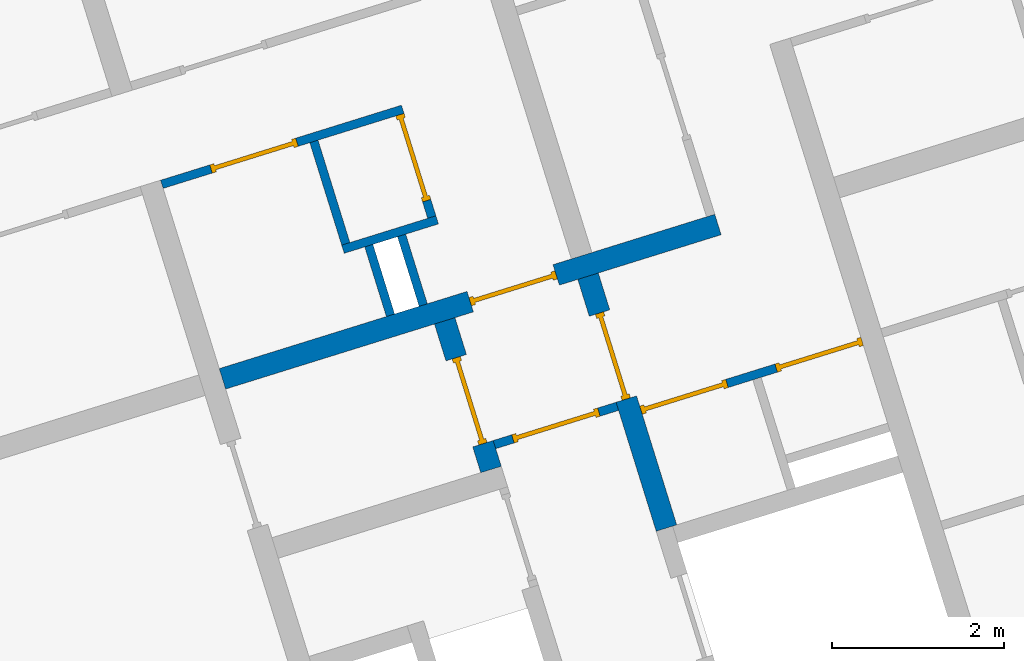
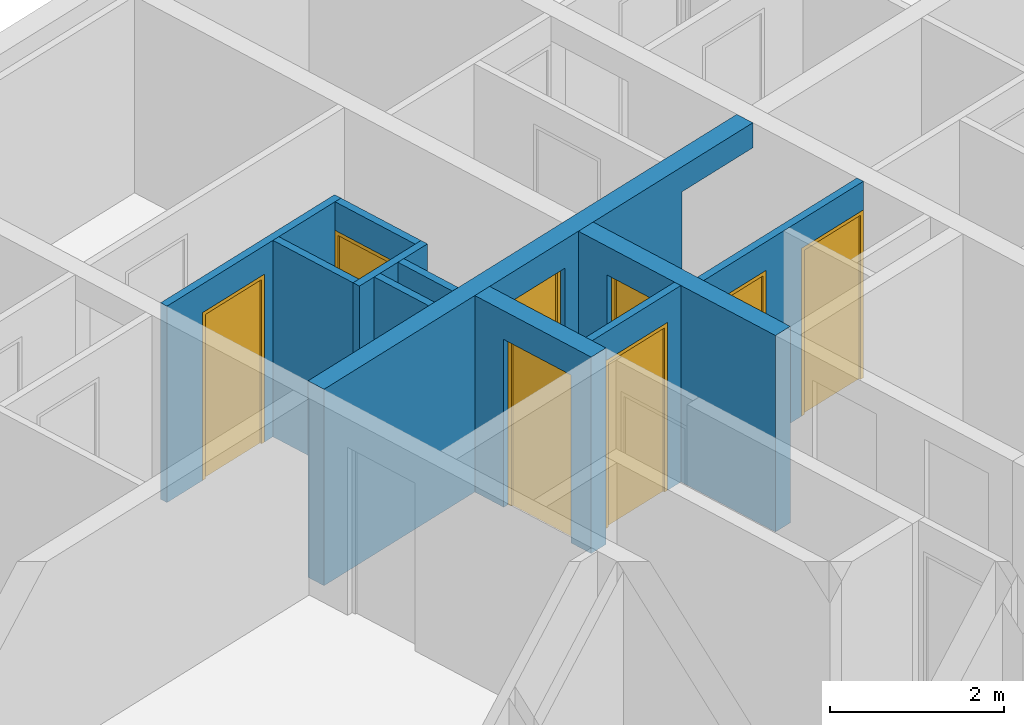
# One storey, part 5 of 9: 11 walls, 8 doors, 11 openings.
"""IFC4 building model written with IfcOpenShell, lengths in metres."""

from ifc_helpers import new_model, entity, si_unit, converted_unit, direction, frame, origin, place, context, subcontext, project, spatial, indexed_curve, outline, extrude, polygons, source, transform, mapped, material, constituent, constituent_set, type_object, type_shapes, element, fill, save


model = new_model("IFC4")

# Units and contexts
model_context = context("Model", 3, precision=1e-05, world=origin(), true_north=direction((6.12323399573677e-17, 1.0)))
body_context = subcontext(model_context, "Body", "Model", "MODEL_VIEW")
ifc_project = project(units=[si_unit("LENGTHUNIT", "METRE"), si_unit("AREAUNIT", "SQUARE_METRE"), converted_unit("PLANEANGLEUNIT", "DEGREE", entity("IfcPlaneAngleMeasure", 0.0174532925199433), si_unit("PLANEANGLEUNIT", "RADIAN"), dimensions=[0, 0, 0, 0, 0, 0, 0]), si_unit("VOLUMEUNIT", "CUBIC_METRE")], contexts=[model_context])

# Site, building, storey
site_placement = place(None, frame((13.1347999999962, 11.9886000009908, 0.0), z_axis=(0.0, 0.0, 1.0), x_axis=(0.954770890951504, 0.297342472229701, 0.0)))
site = spatial("IfcSite", under=ifc_project, at=site_placement, Name="Schiehaven", CompositionType="ELEMENT")
building_placement = place(site_placement, origin())
building = spatial("IfcBuilding", under=site, at=building_placement, Name="VORM huis", CompositionType="ELEMENT")
storey_placement = place(building_placement, frame((0.0, 0.0, 24.9)))
storey = spatial("IfcBuildingStorey", under=building, at=storey_placement, Name="08 achtste verdieping", CompositionType="ELEMENT", Elevation=24.9)

# Wall, openings, door
ifc_material_1 = material(Name="beton_gewapend_ihw", Category="Miscellaneous")
wall_type_1 = type_object("IfcWallType", Name="Basic Wall:28_WA_skelet_wand 250mm_gen", PredefinedType="STANDARD")
wall_1_placement = place(storey_placement, frame((72.3749999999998, 22.1999999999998, 0.0), z_axis=(0.0, 0.0, 1.0), x_axis=(-1.0, 0.0, 0.0)))
wall_1 = element("IfcWall", 1, at=wall_1_placement, inside=storey, type_object=wall_type_1, material=ifc_material_1, Name="Constructieve wand", ObjectType="Wand", PredefinedType="NOTDEFINED", context=body_context, shape_type="Tessellation", body=[
    polygons([(4.225, -0.124999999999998, 2.34999999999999), (4.225, -0.124999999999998, 0.0), (7.25000000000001, -0.124999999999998, 0.0), (7.25000000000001, -0.124999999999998, 2.75), (9.99819487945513e-15, -0.124999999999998, 2.75), (9.99819487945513e-15, -0.124999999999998, 2.4), (1.2, -0.124999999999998, 2.4), (1.2, -0.124999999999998, 0.0), (3.175, -0.124999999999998, 0.0), (3.175, -0.124999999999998, 2.34999999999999), (7.25000000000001, 0.125000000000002, 0.0), (4.22500000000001, 0.125000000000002, 0.0), (4.22500000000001, 0.125000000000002, 2.34999999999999), (3.175, 0.125000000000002, 2.34999999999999), (3.175, 0.125000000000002, 0.0), (1.2, 0.125000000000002, 0.0), (1.2, 0.125000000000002, 2.4), (1.32815610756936e-14, 0.125000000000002, 2.4), (1.32815610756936e-14, 0.125000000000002, 2.75), (7.25, 0.125000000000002, 2.75)], [[[1, 2, 3, 4, 5, 6, 7, 8, 9, 10]], [[11, 12, 13, 14, 15, 16, 17, 18, 19, 20]], [[9, 8, 16, 15]], [[5, 4, 20, 19]], [[5, 19, 18, 6]], [[15, 14, 10, 9]], [[13, 12, 2, 1]], [[14, 13, 1, 10]], [[7, 17, 16, 8]], [[17, 7, 6, 18]], [[4, 3, 11, 20]], [[3, 2, 12, 11]]], closed=True),
])
opening_1_placement = place(wall_1_placement, origin())
element("IfcOpeningElement", 2, at=opening_1_placement, cuts=wall_1, Name="Constructieve wand", PredefinedType="OPENING", context=body_context, shape_type="SweptSolid", body=[
    extrude(outline(indexed_curve([(-1.2, -0.600000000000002), (1.2, -0.600000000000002), (1.2, 0.600000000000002), (-1.2, 0.600000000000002), (-1.2, -0.600000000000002)], self_intersect=False)), frame((0.599999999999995, -0.124999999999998, 1.2), z_axis=(0.0, 1.0, 0.0), x_axis=(0.0, 0.0, -1.0)), (0.0, 0.0, 1.0), 0.250000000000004),
])
opening_2_placement = place(wall_1_placement, frame((3.175, -0.124999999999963, 0.0)))
opening_2 = element("IfcOpeningElement", 3, at=opening_2_placement, cuts=wall_1, Name="Woningtoegangsdeur", PredefinedType="OPENING", context=body_context, shape_type="SweptSolid", body=[
    extrude(outline(indexed_curve([(2.34999999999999, 2.2221558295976e-31), (2.34999999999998, 1.05), (0.0, 1.05), (2.16573425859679e-15, 2.2221558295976e-31), (2.34999999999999, 2.2221558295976e-31)], self_intersect=False)), frame((0.0, 0.0, 0.0), z_axis=(0.0, 1.0, 0.0), x_axis=(0.0, 0.0, 1.0)), (0.0, 0.0, 1.0), 0.25),
])
ifc_material_2 = material(Name="PD_a_binnenwandopeningen", Category="Miscellaneous")
ifc_constituent_1 = constituent(ifc_material_2, Name="PD_a_binnenwandopeningen", Category="Miscellaneous")
ifc_material_3 = material(Name="metaal_aluminium_ntb", Category="Miscellaneous")
ifc_constituent_2 = constituent(ifc_material_3, Name="metaal_aluminium_ntb", Category="Miscellaneous")
ifc_constituent_set_1 = constituent_set(constituents=[ifc_constituent_1, ifc_constituent_2])
ifc_constituent_3 = constituent(ifc_material_2, Name="PD_a_binnenwandopeningen", Category="Miscellaneous")
ifc_constituent_4 = constituent(ifc_material_3, Name="Panel", Category="Miscellaneous")
ifc_constituent_set_2 = constituent_set(constituents=[ifc_constituent_3, ifc_constituent_4])
door_type_1 = type_object("IfcDoorType", Name="32_DO_binnendeur enkel:woningtoegangsdeur", OperationType="REVOLVING", PredefinedType="DOOR", material=ifc_constituent_set_2)
shared_shape_1 = source(origin(), body_context, "Body", "SweptSolid", [
    extrude(outline(indexed_curve([(0.475, -1.16249999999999), (0.525000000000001, -1.16249999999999), (0.525000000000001, 1.18749999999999), (-0.525000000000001, 1.18749999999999), (-0.525000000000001, -1.16249999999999), (-0.475, -1.16249999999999), (-0.475, 1.13749999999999), (0.475, 1.13749999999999), (0.475, -1.16249999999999)], self_intersect=False)), frame((0.525000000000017, 0.174999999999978, 1.16249999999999), z_axis=(0.0, -1.0, 0.0), x_axis=(1.0, 0.0, 0.0)), (0.0, 0.0, 1.0), 0.1),
    extrude(outline(indexed_curve([(-0.475, -0.025), (0.475, -0.025), (0.475, 0.025), (-0.475, 0.025), (-0.475, -0.025)], self_intersect=False)), frame((0.525000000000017, 0.12499999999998, 0.0)), (0.0, 0.0, 1.0), 2.29999999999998),
])
type_shapes(door_type_1, [shared_shape_1])
door_1_placement = place(opening_2_placement, origin())
door_1 = element("IfcDoor", 4, at=door_1_placement, inside=storey, type_object=door_type_1, material=ifc_constituent_set_1, Name="Woningtoegangsdeur", ObjectType="Deur", OperationType="REVOLVING", OverallHeight=2.34999999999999, OverallWidth=1.05, PredefinedType="DOOR", context=body_context, shape_type="MappedRepresentation", body=[
    mapped(shared_shape_1, transform((0.0, 0.0, 0.0), scale=1.0)),
])
fill(opening_2, door_1)

# Wall, opening, door
ifc_material_4 = material(Name="ntb_ntb_ntb", Category="Miscellaneous")
wall_type_2 = type_object("IfcWallType", Name="Basic Wall:22_WA_afbouw_binnenwand 250mm_gen", PredefinedType="STANDARD")
wall_2_placement = place(storey_placement, frame((67.7999999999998, 20.2599999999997, 0.0), z_axis=(0.0, 0.0, 1.0), x_axis=(0.0, 1.0, 0.0)))
wall_2 = element("IfcWall", 5, at=wall_2_placement, inside=storey, type_object=wall_type_2, material=ifc_material_4, Name="Binnenwand", ObjectType="Wand", PredefinedType="NOTDEFINED", context=body_context, shape_type="Tessellation", body=[
    polygons([(4.33146851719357e-15, -0.125000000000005, 0.0), (0.215000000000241, -0.125, 0.0), (0.31500000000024, -0.125000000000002, 0.0), (0.31500000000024, -0.125000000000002, 2.34999999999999), (1.36500000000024, -0.124999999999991, 2.34999999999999), (1.36500000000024, -0.124999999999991, 0.0), (1.81500000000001, -0.124999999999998, 0.0), (1.81500000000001, -0.124999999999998, 2.75), (0.31500000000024, -0.125000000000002, 2.75), (0.215000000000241, -0.125, 2.75), (4.33146851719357e-15, -0.125000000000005, 2.75), (0.31500000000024, 0.125000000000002, 2.34999999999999), (0.31500000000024, 0.125000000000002, 0.0), (8.66293703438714e-15, 0.125000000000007, 0.0), (4.33146851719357e-15, 0.125000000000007, 2.75), (1.81500000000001, 0.124999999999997, 2.75), (1.81500000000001, 0.124999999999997, 0.0), (1.36500000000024, 0.125000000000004, 0.0), (1.36500000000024, 0.125000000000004, 2.34999999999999)], [[[1, 2, 3, 4, 5, 6, 7, 8, 9, 10, 11]], [[12, 13, 14, 15, 16, 17, 18, 19]], [[14, 13, 3, 2, 1]], [[8, 7, 17, 16]], [[11, 10, 9, 8, 16, 15]], [[6, 5, 19, 18]], [[4, 3, 13, 12]], [[5, 4, 12, 19]], [[1, 11, 15, 14]], [[18, 17, 7, 6]]], closed=True),
])
opening_3_placement = place(wall_2_placement, frame((1.36500000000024, 0.125000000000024, 0.0)))
opening_3 = element("IfcOpeningElement", 6, at=opening_3_placement, cuts=wall_2, Name="Woningtoegangsdeur", PredefinedType="OPENING", context=body_context, shape_type="SweptSolid", body=[
    extrude(outline(indexed_curve([(2.34999999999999, 0.0), (2.34999999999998, 1.05), (0.0, 1.05), (2.16573425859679e-15, 0.0), (2.34999999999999, 0.0)], self_intersect=False)), frame((0.0, 0.0, 0.0), z_axis=(0.0, -1.0, 0.0), x_axis=(0.0, 0.0, 1.0)), (0.0, 0.0, 1.0), 0.25),
])
ifc_constituent_5 = constituent(ifc_material_2, Name="PD_a_binnenwandopeningen", Category="Miscellaneous")
ifc_constituent_6 = constituent(ifc_material_3, Name="metaal_aluminium_ntb", Category="Miscellaneous")
ifc_constituent_set_3 = constituent_set(constituents=[ifc_constituent_5, ifc_constituent_6])
ifc_constituent_7 = constituent(ifc_material_2, Name="PD_a_binnenwandopeningen", Category="Miscellaneous")
ifc_constituent_8 = constituent(ifc_material_3, Name="Panel", Category="Miscellaneous")
ifc_constituent_set_4 = constituent_set(constituents=[ifc_constituent_7, ifc_constituent_8])
door_type_2 = type_object("IfcDoorType", Name="32_DO_binnendeur enkel:woningtoegangsdeur", OperationType="REVOLVING", PredefinedType="DOOR", material=ifc_constituent_set_4)
shared_shape_2 = source(origin(), body_context, "Body", "SweptSolid", [
    extrude(outline(indexed_curve([(0.475, -1.16249999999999), (0.525000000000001, -1.16249999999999), (0.525000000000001, 1.18749999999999), (-0.525000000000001, 1.18749999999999), (-0.525000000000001, -1.16249999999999), (-0.475, -1.16249999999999), (-0.475, 1.13749999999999), (0.475, 1.13749999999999), (0.475, -1.16249999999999)], self_intersect=False)), frame((0.525000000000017, 0.174999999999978, 1.16249999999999), z_axis=(0.0, -1.0, 0.0), x_axis=(1.0, 0.0, 0.0)), (0.0, 0.0, 1.0), 0.1),
    extrude(outline(indexed_curve([(-0.475, -0.025), (0.475, -0.025), (0.475, 0.025), (-0.475, 0.025), (-0.475, -0.025)], self_intersect=False)), frame((0.525000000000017, 0.12499999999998, 0.0)), (0.0, 0.0, 1.0), 2.29999999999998),
])
type_shapes(door_type_2, [shared_shape_2])
door_2_placement = place(opening_3_placement, frame((0.0, 0.0, 0.0), z_axis=(0.0, 0.0, 1.0), x_axis=(-1.0, 0.0, 0.0)))
door_2 = element("IfcDoor", 7, at=door_2_placement, inside=storey, type_object=door_type_2, material=ifc_constituent_set_3, Name="Woningtoegangsdeur", ObjectType="Deur", OperationType="REVOLVING", OverallHeight=2.34999999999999, OverallWidth=1.05, PredefinedType="DOOR", context=body_context, shape_type="MappedRepresentation", body=[
    mapped(shared_shape_2, transform((0.0, 0.0, 0.0), scale=1.0)),
])
fill(opening_3, door_2)

wall_3_placement = place(storey_placement, frame((69.5499999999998, 19.0, 0.0), z_axis=(0.0, 0.0, 1.0), x_axis=(0.0, 1.0, 0.0)))
wall_3 = element("IfcWall", 8, at=wall_3_placement, inside=storey, type_object=wall_type_2, material=ifc_material_4, Name="Binnenwand", ObjectType="Wand", PredefinedType="NOTDEFINED", context=body_context, shape_type="Tessellation", body=[
    polygons([(2.62500000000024, -0.12500000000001, 2.34999999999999), (2.62500000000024, -0.12500000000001, 0.0), (3.075, -0.125000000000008, 0.0), (3.075, -0.125000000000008, 2.75), (0.0, -0.125000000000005, 2.75), (0.0, -0.125000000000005, 0.0), (1.57500000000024, -0.125000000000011, 0.0), (1.57500000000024, -0.125000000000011, 2.34999999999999), (3.075, 0.124999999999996, 0.0), (2.62500000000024, 0.125000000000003, 0.0), (2.62500000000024, 0.125000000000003, 2.34999999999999), (1.57500000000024, 0.124999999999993, 2.34999999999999), (1.57500000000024, 0.124999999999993, 0.0), (1.4750000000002, 0.124999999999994, 0.0), (2.16573425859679e-15, 0.12499999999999, 0.0), (2.16573425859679e-15, 0.12499999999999, 2.75), (1.4750000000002, 0.124999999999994, 2.75), (1.5750000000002, 0.124999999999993, 2.75), (3.075, 0.124999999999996, 2.75)], [[[1, 2, 3, 4, 5, 6, 7, 8]], [[9, 10, 11, 12, 13, 14, 15, 16, 17, 18, 19]], [[7, 6, 15, 14, 13]], [[4, 3, 9, 19]], [[5, 4, 19, 18, 17, 16]], [[6, 5, 16, 15]], [[13, 12, 8, 7]], [[11, 10, 2, 1]], [[12, 11, 1, 8]], [[3, 2, 10, 9]]], closed=True),
])
opening_4_placement = place(wall_3_placement, frame((1.57499999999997, -0.124999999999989, 0.0)))
opening_4 = element("IfcOpeningElement", 9, at=opening_4_placement, cuts=wall_3, Name="Woningtoegangsdeur", PredefinedType="OPENING", context=body_context, shape_type="SweptSolid", body=[
    extrude(outline(indexed_curve([(2.34999999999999, 0.0), (2.34999999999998, 1.05), (0.0, 1.05), (2.16573425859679e-15, 0.0), (2.34999999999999, 0.0)], self_intersect=False)), frame((0.0, 0.0, 0.0), z_axis=(0.0, 1.0, 0.0), x_axis=(0.0, 0.0, 1.0)), (0.0, 0.0, 1.0), 0.25),
])
ifc_constituent_9 = constituent(ifc_material_2, Name="PD_a_binnenwandopeningen", Category="Miscellaneous")
ifc_constituent_10 = constituent(ifc_material_3, Name="metaal_aluminium_ntb", Category="Miscellaneous")
ifc_constituent_set_5 = constituent_set(constituents=[ifc_constituent_9, ifc_constituent_10])
door_3_placement = place(opening_4_placement, origin())
door_3 = element("IfcDoor", 10, at=door_3_placement, inside=storey, type_object=door_type_2, material=ifc_constituent_set_5, Name="Woningtoegangsdeur", ObjectType="Deur", OperationType="REVOLVING", OverallHeight=2.34999999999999, OverallWidth=1.05, PredefinedType="DOOR", context=body_context, shape_type="MappedRepresentation", body=[
    mapped(shared_shape_2, transform((0.0, 0.0, 0.0), scale=1.0)),
])
fill(opening_4, door_3)

wall_type_3 = type_object("IfcWallType", Name="Basic Wall:22_WA_afbouw_binnenwand 100mm_gen", PredefinedType="STANDARD")
wall_4_placement = place(storey_placement, frame((67.9249999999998, 20.5249999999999, 0.0)))
wall_4 = element("IfcWall", 11, at=wall_4_placement, inside=storey, type_object=wall_type_3, material=ifc_material_4, Name="Binnenwand", ObjectType="Wand", PredefinedType="NOTDEFINED", context=body_context, shape_type="Tessellation", body=[
    polygons([(1.50000000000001, -0.0500000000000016, 2.75), (1.03359612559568e-15, -0.0499999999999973, 2.75), (1.03359612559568e-15, -0.0499999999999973, 0.0), (0.225000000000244, -0.0500000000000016, 0.0), (0.225000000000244, -0.0500000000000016, 2.34999999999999), (1.27500000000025, -0.0500000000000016, 2.34999999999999), (1.27500000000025, -0.0500000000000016, 0.0), (1.50000000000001, -0.0500000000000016, 0.0), (6.15545946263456e-16, 0.0500000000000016, 2.75), (1.50000000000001, 0.0499999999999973, 2.75), (1.50000000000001, 0.0499999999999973, 2.34999999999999), (1.50000000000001, 0.0499999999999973, 0.0), (1.27500000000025, 0.0499999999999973, 0.0), (1.27500000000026, 0.0499999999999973, 2.34999999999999), (0.225000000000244, 0.0499999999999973, 2.34999999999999), (0.225000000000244, 0.0499999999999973, 0.0), (6.15545946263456e-16, 0.0500000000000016, 0.0), (6.15545946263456e-16, 0.0500000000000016, 2.34999999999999)], [[[1, 2, 3, 4, 5, 6, 7, 8]], [[9, 10, 11, 12, 13, 14, 15, 16, 17, 18]], [[3, 17, 16, 4]], [[2, 1, 10, 9]], [[15, 5, 4, 16]], [[5, 15, 14, 6]], [[6, 14, 13, 7]], [[1, 8, 12, 11, 10]], [[3, 2, 9, 18, 17]], [[12, 8, 7, 13]]], closed=True),
])
opening_5_placement = place(wall_4_placement, frame((1.27500000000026, 0.0499999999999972, 0.0)))
opening_5 = element("IfcOpeningElement", 12, at=opening_5_placement, cuts=wall_4, Name="Vluchtdeur", PredefinedType="OPENING", context=body_context, shape_type="SweptSolid", body=[
    extrude(outline(indexed_curve([(2.34999999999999, -1.78601455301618e-29), (2.34999999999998, 1.05), (0.0, 1.05), (2.16573425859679e-15, -1.78601455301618e-29), (2.34999999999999, -1.78601455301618e-29)], self_intersect=False)), frame((0.0, 0.0, 0.0), z_axis=(0.0, -1.0, 0.0), x_axis=(0.0, 0.0, 1.0)), (0.0, 0.0, 1.0), 0.1),
])
ifc_constituent_11 = constituent(ifc_material_2, Name="PD_a_binnenwandopeningen", Category="Miscellaneous")
ifc_constituent_12 = constituent(ifc_material_3, Name="metaal_aluminium_ntb", Category="Miscellaneous")
ifc_constituent_set_6 = constituent_set(constituents=[ifc_constituent_11, ifc_constituent_12])
ifc_constituent_13 = constituent(ifc_material_2, Name="PD_a_binnenwandopeningen", Category="Miscellaneous")
ifc_constituent_14 = constituent(ifc_material_3, Name="Panel", Category="Miscellaneous")
ifc_constituent_set_7 = constituent_set(constituents=[ifc_constituent_13, ifc_constituent_14])
door_type_3 = type_object("IfcDoorType", Name="32_DO_binnendeur enkel:binnendeur zelfsluitend 30min", OperationType="NOTDEFINED", PredefinedType="DOOR", material=ifc_constituent_set_7)
shared_shape_3 = source(origin(), body_context, "Body", "SweptSolid", [
    extrude(outline(indexed_curve([(0.475, -1.16249999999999), (0.525, -1.16249999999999), (0.525, 1.18749999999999), (-0.525, 1.18749999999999), (-0.525, -1.16249999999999), (-0.475, -1.16249999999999), (-0.475, 1.13749999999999), (0.475, 1.13749999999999), (0.475, -1.16249999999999)], self_intersect=False)), frame((0.525000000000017, 0.100000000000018, 1.16249999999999), z_axis=(0.0, -1.0, 0.0), x_axis=(1.0, 0.0, 0.0)), (0.0, 0.0, 1.0), 0.1),
    extrude(outline(indexed_curve([(-0.475, -0.025), (0.475, -0.025), (0.475, 0.025), (-0.475, 0.025), (-0.475, -0.025)], self_intersect=False)), frame((0.525000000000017, 0.0499999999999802, 0.0)), (0.0, 0.0, 1.0), 2.29999999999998),
])
type_shapes(door_type_3, [shared_shape_3])
door_4_placement = place(opening_5_placement, frame((0.0, 0.0, 0.0), z_axis=(0.0, 0.0, 1.0), x_axis=(-1.0, 0.0, 0.0)))
door_4 = element("IfcDoor", 13, at=door_4_placement, inside=storey, type_object=door_type_3, material=ifc_constituent_set_6, Name="Vluchtdeur", ObjectType="Deur", OperationType="NOTDEFINED", OverallHeight=2.34999999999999, OverallWidth=1.05, PredefinedType="DOOR", context=body_context, shape_type="MappedRepresentation", body=[
    mapped(shared_shape_3, transform((0.0, 0.0, 0.0), scale=1.0)),
])
fill(opening_5, door_4)

# Wall, openings, door
wall_5_placement = place(storey_placement, frame((65.1249999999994, 24.5750000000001, 0.0)))
wall_5 = element("IfcWall", 14, at=wall_5_placement, inside=storey, type_object=wall_type_3, material=ifc_material_4, Name="Binnenwand", ObjectType="Wand", PredefinedType="NOTDEFINED", context=body_context, shape_type="Tessellation", body=[
    polygons([(1.65, -0.0499999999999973, 2.34999999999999), (1.65, -0.0499999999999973, 0.0), (1.79100000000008, -0.049999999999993, 0.0), (1.89100000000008, -0.0499999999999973, 0.0), (2.94100000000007, -0.0499999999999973, 0.0), (2.94100000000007, -0.0499999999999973, 2.34999999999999), (2.94100000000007, -0.0499999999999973, 2.75), (2.84100000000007, -0.0499999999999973, 2.75), (1.89100000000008, -0.0499999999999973, 2.75), (1.79100000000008, -0.049999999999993, 2.75), (-1.42600901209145e-15, -0.0499999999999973, 2.75), (-1.42600901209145e-15, -0.0499999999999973, 0.0), (0.600000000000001, -0.049999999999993, 0.0), (0.600000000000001, -0.049999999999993, 2.34999999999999), (2.94100000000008, 0.0500000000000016, 0.0), (1.65000000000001, 0.0500000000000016, 0.0), (1.65000000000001, 0.0500000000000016, 2.34999999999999), (0.600000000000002, 0.050000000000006, 2.34999999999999), (0.600000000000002, 0.050000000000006, 0.0), (-3.36814153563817e-16, 0.0500000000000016, 0.0), (-3.36814153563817e-16, 0.0500000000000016, 2.75), (2.94100000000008, 0.0500000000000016, 2.75)], [[[1, 2, 3, 4, 5, 6, 7, 8, 9, 10, 11, 12, 13, 14]], [[15, 16, 17, 18, 19, 20, 21, 22]], [[13, 12, 20, 19]], [[11, 10, 9, 8, 7, 22, 21]], [[12, 11, 21, 20]], [[19, 18, 14, 13]], [[17, 16, 2, 1]], [[18, 17, 1, 14]], [[7, 6, 5, 15, 22]], [[5, 4, 3, 2, 16, 15]]], closed=True),
])
opening_6_placement = place(wall_5_placement, origin())
element("IfcOpeningElement", 15, at=opening_6_placement, cuts=wall_5, Name="Binnendeur", PredefinedType="OPENING", context=body_context, shape_type="SweptSolid", body=[
    extrude(outline(indexed_curve([(-0.0499999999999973, -1.17499999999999), (0.050000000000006, -1.17499999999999), (0.050000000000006, 1.17499999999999), (-0.0499999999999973, 1.17499999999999), (-0.0499999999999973, -1.17499999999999)], self_intersect=False)), frame((2.89100000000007, -1.1, 1.17499999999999), z_axis=(0.0, 1.0, 0.0), x_axis=(1.0, 0.0, 0.0)), (0.0, 0.0, 1.0), 1.05),
])
opening_7_placement = place(wall_5_placement, frame((0.600000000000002, -0.0499999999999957, 0.0)))
opening_7 = element("IfcOpeningElement", 16, at=opening_7_placement, cuts=wall_5, Name="Binnendeur", PredefinedType="OPENING", context=body_context, shape_type="SweptSolid", body=[
    extrude(outline(indexed_curve([(2.34999999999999, 3.02234910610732e-29), (2.34999999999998, 1.05), (0.0, 1.05), (2.16573425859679e-15, 3.02234910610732e-29), (2.34999999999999, 3.02234910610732e-29)], self_intersect=False)), frame((0.0, 0.0, 0.0), z_axis=(0.0, 1.0, 0.0), x_axis=(0.0, 0.0, 1.0)), (0.0, 0.0, 1.0), 0.1),
])
ifc_constituent_15 = constituent(ifc_material_2, Name="PD_a_binnenwandopeningen", Category="Miscellaneous")
ifc_constituent_16 = constituent(ifc_material_3, Name="metaal_aluminium_ntb", Category="Miscellaneous")
ifc_constituent_set_8 = constituent_set(constituents=[ifc_constituent_15, ifc_constituent_16])
ifc_constituent_17 = constituent(ifc_material_2, Name="PD_a_binnenwandopeningen", Category="Miscellaneous")
ifc_constituent_18 = constituent(ifc_material_3, Name="Panel", Category="Miscellaneous")
ifc_constituent_set_9 = constituent_set(constituents=[ifc_constituent_17, ifc_constituent_18])
door_type_4 = type_object("IfcDoorType", Name="32_DO_binnendeur enkel:binnendeur", OperationType="REVOLVING", PredefinedType="DOOR", material=ifc_constituent_set_9)
shared_shape_4 = source(origin(), body_context, "Body", "SweptSolid", [
    extrude(outline(indexed_curve([(0.475, -1.16249999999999), (0.525, -1.16249999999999), (0.525, 1.18749999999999), (-0.525, 1.18749999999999), (-0.525, -1.16249999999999), (-0.475, -1.16249999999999), (-0.475, 1.13749999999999), (0.475, 1.13749999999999), (0.475, -1.16249999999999)], self_intersect=False)), frame((0.525000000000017, 0.100000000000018, 1.16249999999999), z_axis=(0.0, -1.0, 0.0), x_axis=(1.0, 0.0, 0.0)), (0.0, 0.0, 1.0), 0.1),
    extrude(outline(indexed_curve([(-0.475, -0.025), (0.475, -0.025), (0.475, 0.025), (-0.475, 0.025), (-0.475, -0.025)], self_intersect=False)), frame((0.525000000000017, 0.0499999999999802, 0.0)), (0.0, 0.0, 1.0), 2.29999999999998),
])
type_shapes(door_type_4, [shared_shape_4])
door_5_placement = place(opening_7_placement, origin())
door_5 = element("IfcDoor", 17, at=door_5_placement, inside=storey, type_object=door_type_4, material=ifc_constituent_set_8, Name="Binnendeur", ObjectType="Deur", OperationType="REVOLVING", OverallHeight=2.34999999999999, OverallWidth=1.05, PredefinedType="DOOR", context=body_context, shape_type="MappedRepresentation", body=[
    mapped(shared_shape_4, transform((0.0, 0.0, 0.0), scale=1.0)),
])
fill(opening_7, door_5)

# Wall, opening, door
wall_6_placement = place(storey_placement, frame((68.0159999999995, 24.5250000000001, 0.0), z_axis=(0.0, 0.0, 1.0), x_axis=(0.0, -1.0, 0.0)))
wall_6 = element("IfcWall", 18, at=wall_6_placement, inside=storey, type_object=wall_type_3, material=ifc_material_4, Name="Binnenwand", ObjectType="Wand", PredefinedType="NOTDEFINED", context=body_context, shape_type="Tessellation", body=[
    polygons([(1.24999999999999, -0.0500000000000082, 2.75), (-4.33146851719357e-15, -0.0500000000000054, 2.75), (-4.33146851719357e-15, -0.0500000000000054, 2.34999999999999), (1.05, -0.0500000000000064, 2.34999999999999), (1.05, -0.0500000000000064, 0.0), (1.24999999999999, -0.0500000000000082, 0.0), (0.0, 0.0499999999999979, 2.75), (1.24999999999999, 0.049999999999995, 2.75), (1.24999999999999, 0.049999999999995, 0.0), (1.05, 0.0499999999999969, 0.0), (1.05, 0.0499999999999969, 2.34999999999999), (0.0, 0.0499999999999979, 2.34999999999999)], [[[1, 2, 3, 4, 5, 6]], [[7, 8, 9, 10, 11, 12]], [[9, 6, 5, 10]], [[2, 1, 8, 7]], [[4, 11, 10, 5]], [[11, 4, 3, 12]], [[1, 6, 9, 8]], [[2, 7, 12, 3]]], closed=True),
])
opening_8_placement = place(wall_6_placement, frame((0.0, -0.050000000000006, 0.0)))
opening_8 = element("IfcOpeningElement", 19, at=opening_8_placement, cuts=wall_6, Name="Binnendeur", PredefinedType="OPENING", context=body_context, shape_type="SweptSolid", body=[
    extrude(outline(indexed_curve([(2.34999999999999, -9.61779215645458e-31), (2.34999999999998, 1.05), (0.0, 1.05), (2.16573425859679e-15, -9.61779215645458e-31), (2.34999999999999, -9.61779215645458e-31)], self_intersect=False)), frame((0.0, 0.0, 0.0), z_axis=(0.0, 1.0, 0.0), x_axis=(0.0, 0.0, 1.0)), (0.0, 0.0, 1.0), 0.1),
])
ifc_constituent_19 = constituent(ifc_material_2, Name="PD_a_binnenwandopeningen", Category="Miscellaneous")
ifc_constituent_20 = constituent(ifc_material_3, Name="metaal_aluminium_ntb", Category="Miscellaneous")
ifc_constituent_set_10 = constituent_set(constituents=[ifc_constituent_19, ifc_constituent_20])
door_6_placement = place(opening_8_placement, origin())
door_6 = element("IfcDoor", 20, at=door_6_placement, inside=storey, type_object=door_type_4, material=ifc_constituent_set_10, Name="Binnendeur", ObjectType="Deur", OperationType="REVOLVING", OverallHeight=2.34999999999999, OverallWidth=1.05, PredefinedType="DOOR", context=body_context, shape_type="MappedRepresentation", body=[
    mapped(shared_shape_4, transform((0.0, 0.0, 0.0), scale=1.0)),
])
fill(opening_8, door_6)

# Walls
wall_7_placement = place(storey_placement, frame((66.9159999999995, 23.2250000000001, 0.0)))
element("IfcWall", 21, at=wall_7_placement, inside=storey, type_object=wall_type_3, material=ifc_material_4, Name="Binnenwand", ObjectType="Wand", PredefinedType="NOTDEFINED", context=body_context, shape_type="SweptSolid", body=[
    extrude(outline(indexed_curve([(1.15, 0.0500000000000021), (5.44597429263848e-16, 0.0500000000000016), (-5.44597429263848e-16, -0.0500000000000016), (1.15, -0.0500000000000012), (1.15, 0.0500000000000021)], self_intersect=False)), origin(), (0.0, 0.0, 1.0), 2.75),
])
wall_8_placement = place(storey_placement, frame((66.9659999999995, 23.2750000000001, 0.0), z_axis=(0.0, 0.0, 1.0), x_axis=(0.0, 1.0, 0.0)))
element("IfcWall", 22, at=wall_8_placement, inside=storey, type_object=wall_type_3, material=ifc_material_4, Name="Binnenwand", ObjectType="Wand", PredefinedType="NOTDEFINED", context=body_context, shape_type="SweptSolid", body=[
    extrude(outline(indexed_curve([(1.25, 0.0499999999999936), (4.9348290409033e-16, 0.0499999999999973), (-4.9348290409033e-16, -0.0499999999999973), (1.25, -0.050000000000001), (1.25, 0.0499999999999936)], self_intersect=False)), origin(), (0.0, 0.0, 1.0), 2.75),
])
wall_9_placement = place(storey_placement, frame((67.6159999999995, 22.3250000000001, 0.0), z_axis=(0.0, 0.0, 1.0), x_axis=(0.0, 1.0, 0.0)))
element("IfcWall", 23, at=wall_9_placement, inside=storey, type_object=wall_type_3, material=ifc_material_4, Name="Binnenwand", ObjectType="Wand", PredefinedType="NOTDEFINED", context=body_context, shape_type="SweptSolid", body=[
    extrude(outline(indexed_curve([(0.85000000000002, 0.0499999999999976), (4.9348290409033e-16, 0.0499999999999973), (-4.9348290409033e-16, -0.0499999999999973), (0.850000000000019, -0.049999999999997), (0.85000000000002, 0.0499999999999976)], self_intersect=False)), origin(), (0.0, 0.0, 1.0), 2.75),
])
wall_10_placement = place(storey_placement, frame((67.2159999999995, 22.3250000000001, 0.0), z_axis=(0.0, 0.0, 1.0), x_axis=(0.0, 1.0, 0.0)))
element("IfcWall", 24, at=wall_10_placement, inside=storey, type_object=wall_type_3, material=ifc_material_4, Name="Binnenwand", ObjectType="Wand", PredefinedType="NOTDEFINED", context=body_context, shape_type="SweptSolid", body=[
    extrude(outline(indexed_curve([(0.850000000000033, 0.0499999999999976), (4.9348290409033e-16, 0.0499999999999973), (-4.9348290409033e-16, -0.0499999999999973), (0.850000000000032, -0.049999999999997), (0.850000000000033, 0.0499999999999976)], self_intersect=False)), origin(), (0.0, 0.0, 1.0), 2.75),
])

# Wall, openings, doors
wall_11_placement = place(storey_placement, frame((72.3749999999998, 20.3999999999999, 0.0), z_axis=(0.0, 0.0, 1.0), x_axis=(-1.0, 0.0, 0.0)))
wall_11 = element("IfcWall", 25, at=wall_11_placement, inside=storey, type_object=wall_type_3, material=ifc_material_4, Name="Binnenwand", ObjectType="Wand", PredefinedType="NOTDEFINED", context=body_context, shape_type="Tessellation", body=[
    polygons([(2.70000000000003, -0.0499999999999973, 2.75), (3.45762825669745e-15, -0.0499999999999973, 2.75), (3.45762825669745e-15, -0.0499999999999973, 2.34999999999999), (1.05, -0.0499999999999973, 2.34999999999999), (1.05, -0.0499999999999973, 0.0), (1.65000000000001, -0.0499999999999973, 0.0), (1.65000000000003, -0.0499999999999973, 2.34999999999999), (2.70000000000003, -0.0499999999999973, 2.34999999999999), (4.28795154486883e-15, 0.0500000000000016, 2.75), (1.25000000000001, 0.0500000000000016, 2.75), (1.35000000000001, 0.0500000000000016, 2.75), (2.70000000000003, 0.0500000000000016, 2.75), (2.70000000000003, 0.0500000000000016, 2.34999999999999), (1.65000000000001, 0.0500000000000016, 2.34999999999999), (1.65000000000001, 0.0500000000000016, 0.0), (1.35000000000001, 0.0500000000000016, 0.0), (1.25000000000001, 0.0500000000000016, 0.0), (1.05, 0.0500000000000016, 0.0), (1.05, 0.0500000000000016, 2.34999999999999), (4.28795154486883e-15, 0.0500000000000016, 2.34999999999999)], [[[1, 2, 3, 4, 5, 6, 7, 8]], [[9, 10, 11, 12, 13, 14, 15, 16, 17, 18, 19, 20]], [[15, 6, 5, 18, 17, 16]], [[12, 1, 8, 13]], [[2, 1, 12, 11, 10, 9]], [[2, 9, 20, 3]], [[4, 19, 18, 5]], [[19, 4, 3, 20]], [[14, 7, 6, 15]], [[7, 14, 13, 8]]], closed=True),
])
opening_9_placement = place(wall_11_placement, frame((1.05, 0.0500000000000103, 0.0)))
opening_9 = element("IfcOpeningElement", 26, at=opening_9_placement, cuts=wall_11, Name="Binnendeur", PredefinedType="OPENING", context=body_context, shape_type="SweptSolid", body=[
    extrude(outline(indexed_curve([(2.34999999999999, 4.91711606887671e-31), (2.34999999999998, 1.05), (0.0, 1.05), (2.16573425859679e-15, 4.91711606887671e-31), (2.34999999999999, 4.91711606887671e-31)], self_intersect=False)), frame((0.0, 0.0, 0.0), z_axis=(0.0, -1.0, 0.0), x_axis=(0.0, 0.0, 1.0)), (0.0, 0.0, 1.0), 0.1),
])
opening_10_placement = place(wall_11_placement, frame((72.3749999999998, 20.3999999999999, 0.0), z_axis=(0.0, 0.0, 1.0), x_axis=(-1.0, 0.0, 0.0)))
element("IfcOpeningElement", 27, at=opening_10_placement, cuts=wall_11, Name="Binnendeur", PredefinedType="OPENING", context=body_context, shape_type="SweptSolid", body=[
    extrude(outline(indexed_curve([(-1.17499999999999, -0.525000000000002), (1.17499999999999, -0.525000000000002), (1.17499999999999, 0.525000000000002), (-1.17499999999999, 0.525000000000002), (-1.17499999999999, -0.525000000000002)], self_intersect=False)), frame((71.8499999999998, 21.8739999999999, 1.17499999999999), z_axis=(0.0, -1.0, 0.0), x_axis=(0.0, 0.0, -1.0)), (0.0, 0.0, 1.0), 3.048),
])
opening_11_placement = place(wall_11_placement, frame((2.70000000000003, 0.0500000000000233, 0.0)))
opening_11 = element("IfcOpeningElement", 28, at=opening_11_placement, cuts=wall_11, Name="Binnendeur", PredefinedType="OPENING", context=body_context, shape_type="SweptSolid", body=[
    extrude(outline(indexed_curve([(2.34999999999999, 4.91711606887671e-31), (2.34999999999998, 1.05), (0.0, 1.05), (2.16573425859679e-15, 4.91711606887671e-31), (2.34999999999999, 4.91711606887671e-31)], self_intersect=False)), frame((0.0, 0.0, 0.0), z_axis=(0.0, -1.0, 0.0), x_axis=(0.0, 0.0, 1.0)), (0.0, 0.0, 1.0), 0.1),
])
ifc_constituent_21 = constituent(ifc_material_2, Name="PD_a_binnenwandopeningen", Category="Miscellaneous")
ifc_constituent_22 = constituent(ifc_material_3, Name="metaal_aluminium_ntb", Category="Miscellaneous")
ifc_constituent_set_11 = constituent_set(constituents=[ifc_constituent_21, ifc_constituent_22])
door_7_placement = place(opening_9_placement, frame((0.0, 0.0, 0.0), z_axis=(0.0, 0.0, 1.0), x_axis=(-1.0, 0.0, 0.0)))
door_7 = element("IfcDoor", 29, at=door_7_placement, inside=storey, type_object=door_type_4, material=ifc_constituent_set_11, Name="Binnendeur", ObjectType="Deur", OperationType="REVOLVING", OverallHeight=2.34999999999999, OverallWidth=1.05, PredefinedType="DOOR", context=body_context, shape_type="MappedRepresentation", body=[
    mapped(shared_shape_4, transform((0.0, 0.0, 0.0), scale=1.0)),
])
fill(opening_9, door_7)
ifc_constituent_23 = constituent(ifc_material_2, Name="PD_a_binnenwandopeningen", Category="Miscellaneous")
ifc_constituent_24 = constituent(ifc_material_3, Name="metaal_aluminium_ntb", Category="Miscellaneous")
ifc_constituent_set_12 = constituent_set(constituents=[ifc_constituent_23, ifc_constituent_24])
door_8_placement = place(opening_11_placement, frame((0.0, 0.0, 0.0), z_axis=(0.0, 0.0, 1.0), x_axis=(-1.0, 0.0, 0.0)))
door_8 = element("IfcDoor", 30, at=door_8_placement, inside=storey, type_object=door_type_4, material=ifc_constituent_set_12, Name="Binnendeur", ObjectType="Deur", OperationType="REVOLVING", OverallHeight=2.34999999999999, OverallWidth=1.05, PredefinedType="DOOR", context=body_context, shape_type="MappedRepresentation", body=[
    mapped(shared_shape_4, transform((0.0, 0.0, 0.0), scale=1.0)),
])
fill(opening_11, door_8)

save(model, "model.ifc")
